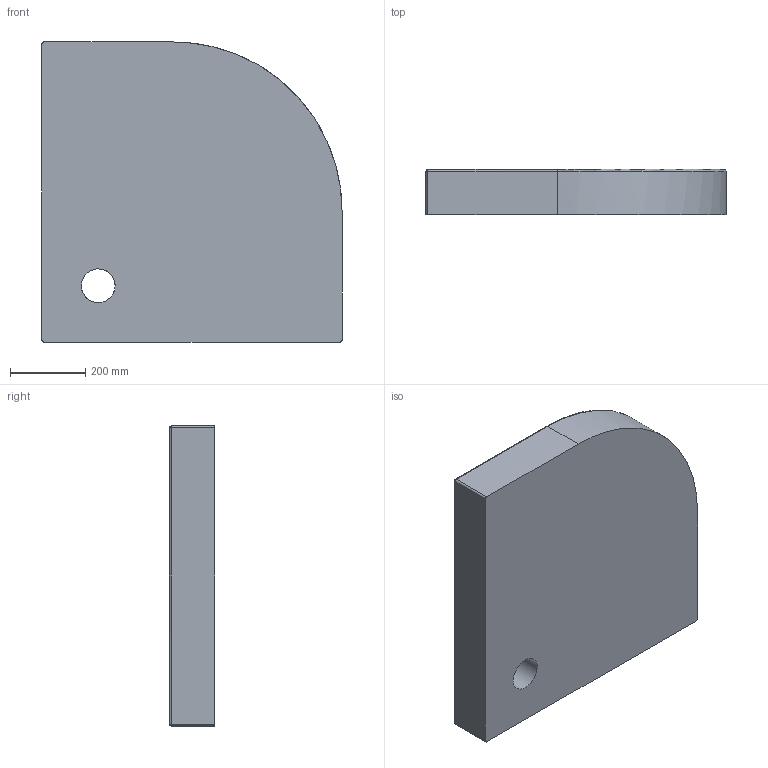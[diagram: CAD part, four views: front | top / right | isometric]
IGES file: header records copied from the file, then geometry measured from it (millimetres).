
Global section: file name: 37097f76-2ffb-4582-ab65-3285d03c6eda; native system: unknown; preprocessor: unknown; author: unknown; organization: unknown; date: 20200103.094318; units: millimetre
Bounding box: 800 x 120 x 800 mm (x, y, z)
Volume: 61777586.5 mm3; surface area: 1600974.7 mm2
Topology: 1 solids, 1 shells, 47 faces, 100 edges, 56 vertices
Faces by surface type: bspline 47
